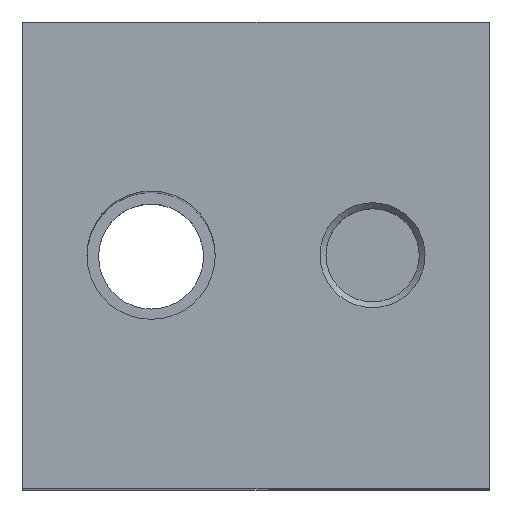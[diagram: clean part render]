
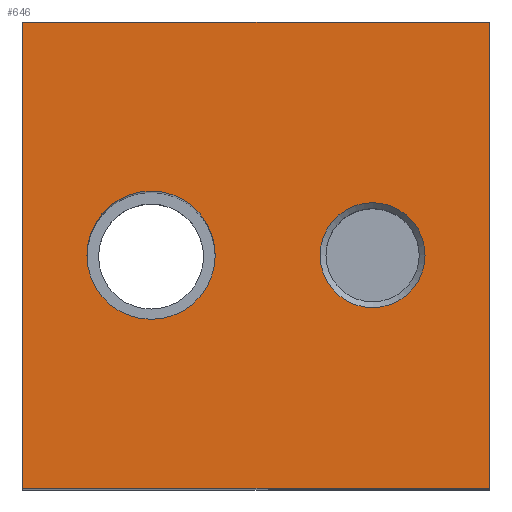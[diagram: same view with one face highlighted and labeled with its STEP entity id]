
A CAD part, top view. The second image highlights one B-rep face of the part: STEP entity #646.
In plain terms, the highlighted planar face has unit normal (0, 0, 1) as drawn and (0, 1, 0) by its records, which use the part's own axes.
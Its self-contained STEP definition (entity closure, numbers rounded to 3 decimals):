
#64=LINE('',#1028,#106);
#65=LINE('',#1030,#107);
#66=LINE('',#1032,#108);
#67=LINE('',#1033,#109);
#106=VECTOR('',#845,40.);
#107=VECTOR('',#846,40.);
#108=VECTOR('',#847,40.);
#109=VECTOR('',#848,40.);
#144=PLANE('',#713);
#179=FACE_BOUND('',#274,.T.);
#180=FACE_BOUND('',#275,.T.);
#212=FACE_OUTER_BOUND('',#273,.T.);
#273=EDGE_LOOP('',(#523,#524,#525,#526));
#274=EDGE_LOOP('',(#527));
#275=EDGE_LOOP('',(#528));
#324=CIRCLE('',#707,5.5);
#326=CIRCLE('',#710,4.5);
#358=VERTEX_POINT('',#1015);
#360=VERTEX_POINT('',#1020);
#362=VERTEX_POINT('',#1026);
#363=VERTEX_POINT('',#1027);
#364=VERTEX_POINT('',#1029);
#365=VERTEX_POINT('',#1031);
#420=EDGE_CURVE('',#358,#358,#324,.T.);
#422=EDGE_CURVE('',#360,#360,#326,.T.);
#424=EDGE_CURVE('',#362,#363,#64,.T.);
#425=EDGE_CURVE('',#363,#364,#65,.T.);
#426=EDGE_CURVE('',#364,#365,#66,.T.);
#427=EDGE_CURVE('',#362,#365,#67,.T.);
#523=ORIENTED_EDGE('',*,*,#424,.T.);
#524=ORIENTED_EDGE('',*,*,#425,.T.);
#525=ORIENTED_EDGE('',*,*,#426,.T.);
#526=ORIENTED_EDGE('',*,*,#427,.F.);
#527=ORIENTED_EDGE('',*,*,#420,.T.);
#528=ORIENTED_EDGE('',*,*,#422,.F.);
#646=ADVANCED_FACE('',(#212,#179,#180),#144,.T.);
#707=AXIS2_PLACEMENT_3D('',#1016,#831,#832);
#710=AXIS2_PLACEMENT_3D('',#1021,#837,#838);
#713=AXIS2_PLACEMENT_3D('',#1025,#843,#844);
#831=DIRECTION('center_axis',(0.,-1.,0.));
#832=DIRECTION('ref_axis',(1.,0.,0.));
#837=DIRECTION('center_axis',(0.,1.,0.));
#838=DIRECTION('ref_axis',(-1.,0.,0.));
#843=DIRECTION('center_axis',(0.,1.,0.));
#844=DIRECTION('ref_axis',(0.,0.,1.));
#845=DIRECTION('',(1.,0.,0.));
#846=DIRECTION('',(0.,0.,-1.));
#847=DIRECTION('',(-1.,0.,0.));
#848=DIRECTION('',(0.,0.,-1.));
#1015=CARTESIAN_POINT('',(-4.5,70.,0.));
#1016=CARTESIAN_POINT('Origin',(-10.,70.,0.));
#1020=CARTESIAN_POINT('',(13.5,70.,0.));
#1021=CARTESIAN_POINT('Origin',(9.,70.,0.));
#1025=CARTESIAN_POINT('Origin',(-21.,70.,0.));
#1026=CARTESIAN_POINT('',(-21.,70.,20.));
#1027=CARTESIAN_POINT('',(19.,70.,20.));
#1028=CARTESIAN_POINT('',(-21.,70.,20.));
#1029=CARTESIAN_POINT('',(19.,70.,-20.));
#1030=CARTESIAN_POINT('',(19.,70.,0.));
#1031=CARTESIAN_POINT('',(-21.,70.,-20.));
#1032=CARTESIAN_POINT('',(-21.,70.,-20.));
#1033=CARTESIAN_POINT('',(-21.,70.,0.));
